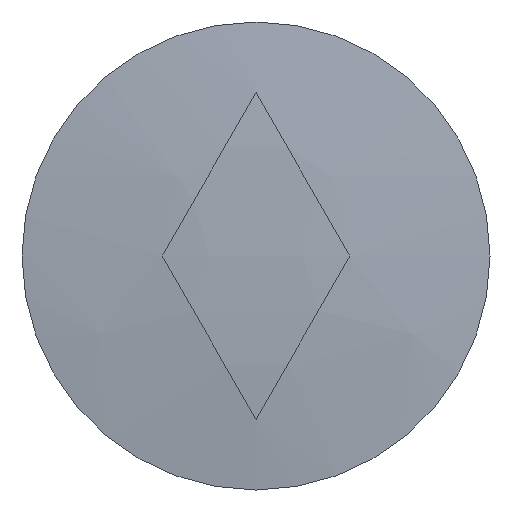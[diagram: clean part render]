
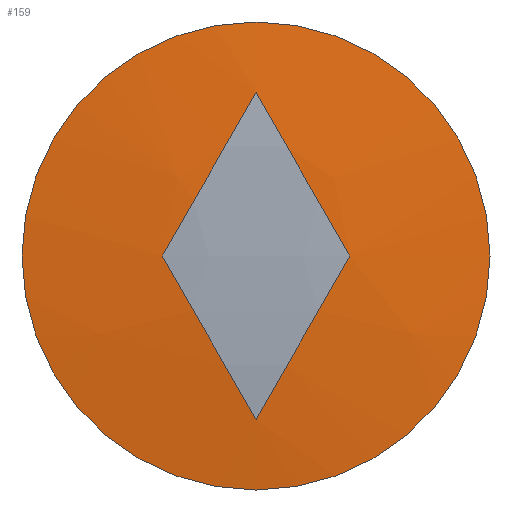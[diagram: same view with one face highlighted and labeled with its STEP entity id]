
A CAD part, front view. The second image highlights one B-rep face of the part: STEP entity #159.
In plain terms, the highlighted spherical face has radius 113 mm.
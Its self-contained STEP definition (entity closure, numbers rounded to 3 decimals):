
#93 = VERTEX_POINT( '', #247 );
#97 = EDGE_CURVE( '', #93, #115, #252, .T. );
#113 = EDGE_CURVE( '', #179, #137, #272, .T. );
#115 = VERTEX_POINT( '', #274 );
#123 = VERTEX_POINT( '', #283 );
#137 = VERTEX_POINT( '', #298 );
#145 = EDGE_CURVE( '', #205, #93, #306, .T. );
#159 = ADVANCED_FACE( '', ( #320, #321 ), #322, .T. );
#167 = EDGE_CURVE( '', #137, #179, #330, .T. );
#179 = VERTEX_POINT( '', #343 );
#195 = EDGE_CURVE( '', #123, #205, #361, .T. );
#197 = EDGE_CURVE( '', #115, #123, #363, .T. );
#205 = VERTEX_POINT( '', #372 );
#247 = CARTESIAN_POINT( '', ( -6., -23.841, 0. ) );
#252 = CIRCLE( '', #415, 112.88 );
#272 = CIRCLE( '', #440, 15. );
#274 = CARTESIAN_POINT( '', ( 0., -23.511, 10.5 ) );
#283 = CARTESIAN_POINT( '', ( 6., -23.841, 0. ) );
#298 = CARTESIAN_POINT( '', ( 0., -23., 15. ) );
#306 = CIRCLE( '', #483, 112.88 );
#320 = FACE_OUTER_BOUND( '', #502, .T. );
#321 = FACE_OUTER_BOUND( '', #503, .T. );
#322 = SPHERICAL_SURFACE( '', #504, 113. );
#330 = CIRCLE( '', #515, 15. );
#343 = CARTESIAN_POINT( '', ( 0., -23., -15. ) );
#361 = CIRCLE( '', #555, 112.88 );
#363 = CIRCLE( '', #558, 112.88 );
#372 = CARTESIAN_POINT( '', ( 0., -23.511, -10.5 ) );
#415 = AXIS2_PLACEMENT_3D( '', #614, #615, #616 );
#440 = AXIS2_PLACEMENT_3D( '', #643, #644, #645 );
#483 = AXIS2_PLACEMENT_3D( '', #669, #670, #671 );
#502 = EDGE_LOOP( '', ( #683, #684, #685, #686 ) );
#503 = EDGE_LOOP( '', ( #687, #688 ) );
#504 = AXIS2_PLACEMENT_3D( '', #689, #690, #691 );
#515 = AXIS2_PLACEMENT_3D( '', #698, #699, #700 );
#555 = AXIS2_PLACEMENT_3D( '', #743, #744, #745 );
#558 = AXIS2_PLACEMENT_3D( '', #746, #747, #748 );
#614 = CARTESIAN_POINT( '', ( -4.523, 89., 2.585 ) );
#615 = DIRECTION( '', ( -0.868, 0., 0.496 ) );
#616 = DIRECTION( '', ( -0.496, 0., -0.868 ) );
#643 = CARTESIAN_POINT( '', ( 0., -23., 0. ) );
#644 = DIRECTION( '', ( 0., -1., 0. ) );
#645 = DIRECTION( '', ( 0., 0., 1. ) );
#669 = CARTESIAN_POINT( '', ( -4.523, 89., -2.585 ) );
#670 = DIRECTION( '', ( -0.868, 0., -0.496 ) );
#671 = DIRECTION( '', ( 0.496, 0., -0.868 ) );
#683 = ORIENTED_EDGE( '', *, *, #197, .T. );
#684 = ORIENTED_EDGE( '', *, *, #195, .T. );
#685 = ORIENTED_EDGE( '', *, *, #145, .T. );
#686 = ORIENTED_EDGE( '', *, *, #97, .T. );
#687 = ORIENTED_EDGE( '', *, *, #167, .T. );
#688 = ORIENTED_EDGE( '', *, *, #113, .T. );
#689 = CARTESIAN_POINT( '', ( 0., 89., 0. ) );
#690 = DIRECTION( '', ( 0., 0., 1. ) );
#691 = DIRECTION( '', ( 1., 0., 0. ) );
#698 = CARTESIAN_POINT( '', ( 0., -23., 0. ) );
#699 = DIRECTION( '', ( 0., -1., 0. ) );
#700 = DIRECTION( '', ( 0., 0., 1. ) );
#743 = CARTESIAN_POINT( '', ( 4.523, 89., -2.585 ) );
#744 = DIRECTION( '', ( 0.868, 0., -0.496 ) );
#745 = DIRECTION( '', ( 0.496, 0., 0.868 ) );
#746 = CARTESIAN_POINT( '', ( 4.523, 89., 2.585 ) );
#747 = DIRECTION( '', ( 0.868, 0., 0.496 ) );
#748 = DIRECTION( '', ( -0.496, 0., 0.868 ) );
